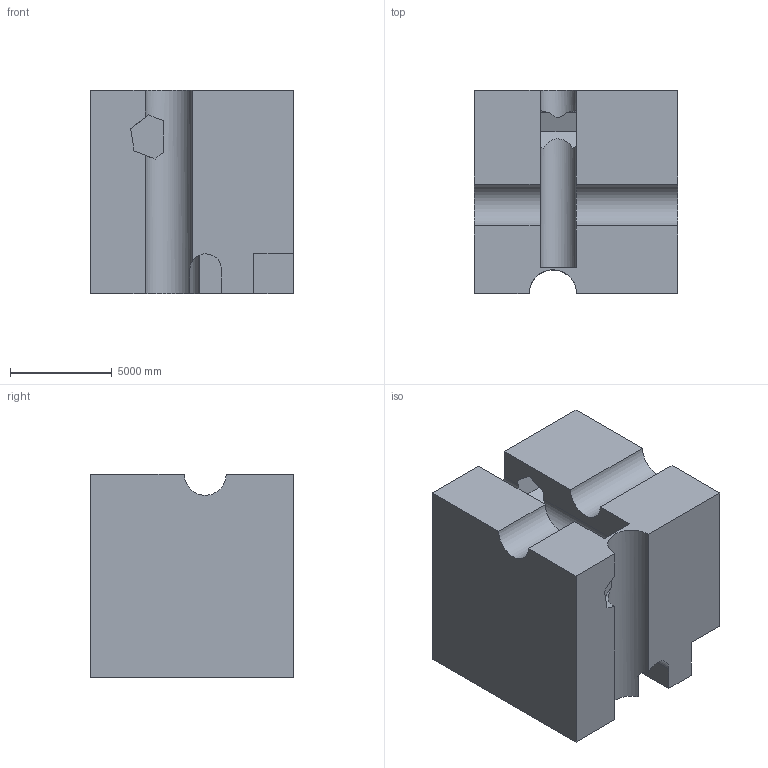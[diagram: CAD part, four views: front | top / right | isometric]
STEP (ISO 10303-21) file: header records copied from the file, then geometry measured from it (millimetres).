
FILE_DESCRIPTION (( 'STEP AP203' ), '1' );
FILE_NAME ('793.STEP', '2022-07-29T13:15:11', ( 'user' ), ( '' ), 'SwSTEP 2.0', 'SolidWorks 2021', '' );
FILE_SCHEMA (( 'CONFIG_CONTROL_DESIGN' ));
Length unit declared in the file: centimetre
Products named in the file (1): 793
Bounding box: 10000 x 10000 x 10000 mm (x, y, z)
Volume: 835339290237.3 mm3; surface area: 745018293.3 mm2
Topology: 1 solids, 1 shells, 44 faces, 129 edges, 86 vertices
Faces by surface type: plane 36, cylinder 8
Entity records: 1635 total; most frequent: CARTESIAN_POINT 400, ORIENTED_EDGE 258, DIRECTION 222, EDGE_CURVE 129, LINE 102, VECTOR 102, VERTEX_POINT 86, AXIS2_PLACEMENT_3D 60
